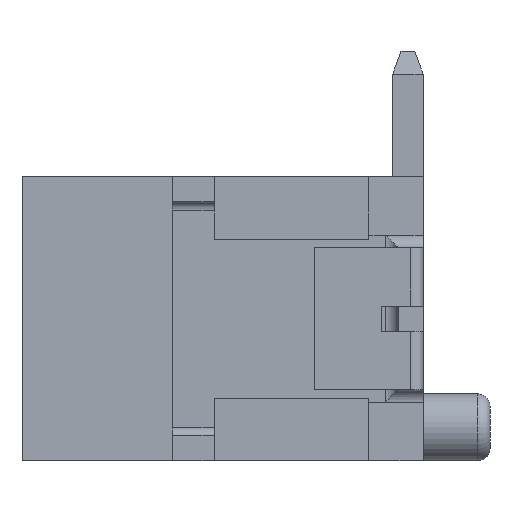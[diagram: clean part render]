
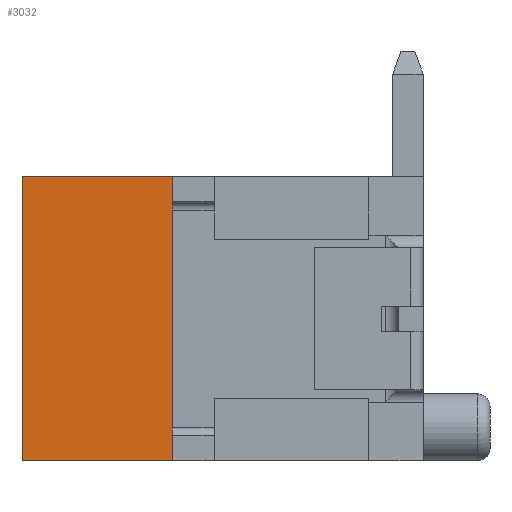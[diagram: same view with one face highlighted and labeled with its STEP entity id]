
A CAD part, left-side view. The second image highlights one B-rep face of the part: STEP entity #3032.
In plain terms, the highlighted planar face has unit normal (-1, 0, 0).
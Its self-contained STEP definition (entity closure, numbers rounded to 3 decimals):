
#204 = DIRECTION ( 'NONE',  ( 0., -1., 0. ) ) ;
#351 = DIRECTION ( 'NONE',  ( 0., 0., 1. ) ) ;
#398 = PLANE ( 'NONE',  #4417 ) ;
#486 = VECTOR ( 'NONE', #204, 1000. ) ;
#592 = EDGE_CURVE ( 'NONE', #1439, #5412, #5262, .T. ) ;
#852 = LINE ( 'NONE', #3424, #486 ) ;
#984 = FACE_OUTER_BOUND ( 'NONE', #3576, .T. ) ;
#1439 = VERTEX_POINT ( 'NONE', #4715 ) ;
#1564 = EDGE_CURVE ( 'NONE', #4675, #1439, #852, .T. ) ;
#1709 = VECTOR ( 'NONE', #2821, 1000. ) ;
#2070 = LINE ( 'NONE', #5309, #2703 ) ;
#2703 = VECTOR ( 'NONE', #4683, 1000. ) ;
#2821 = DIRECTION ( 'NONE',  ( 0., 0., -1. ) ) ;
#3032 = ADVANCED_FACE ( 'NONE', ( #984 ), #398, .T. ) ;
#3424 = CARTESIAN_POINT ( 'NONE',  ( 0., -4.8, 0. ) ) ;
#3576 = EDGE_LOOP ( 'NONE', ( #4090, #6000, #4229, #4504 ) ) ;
#3645 = CARTESIAN_POINT ( 'NONE',  ( 0., 0., 0. ) ) ;
#4036 = EDGE_CURVE ( 'NONE', #4973, #4675, #7945, .T. ) ;
#4090 = ORIENTED_EDGE ( 'NONE', *, *, #592, .F. ) ;
#4229 = ORIENTED_EDGE ( 'NONE', *, *, #4036, .F. ) ;
#4289 = CARTESIAN_POINT ( 'NONE',  ( 0., 0., 0. ) ) ;
#4417 = AXIS2_PLACEMENT_3D ( 'NONE', #3645, #8094, #351 ) ;
#4504 = ORIENTED_EDGE ( 'NONE', *, *, #6615, .F. ) ;
#4675 = VERTEX_POINT ( 'NONE', #4289 ) ;
#4683 = DIRECTION ( 'NONE',  ( 0., 1., 0. ) ) ;
#4715 = CARTESIAN_POINT ( 'NONE',  ( 0., -1.8, 0. ) ) ;
#4973 = VERTEX_POINT ( 'NONE', #5441 ) ;
#5262 = LINE ( 'NONE', #7823, #1709 ) ;
#5309 = CARTESIAN_POINT ( 'NONE',  ( 0., 0., -3.4 ) ) ;
#5412 = VERTEX_POINT ( 'NONE', #5456 ) ;
#5441 = CARTESIAN_POINT ( 'NONE',  ( 0., 0., -3.4 ) ) ;
#5456 = CARTESIAN_POINT ( 'NONE',  ( 0., -1.8, -3.4 ) ) ;
#5499 = VECTOR ( 'NONE', #6620, 1000. ) ;
#6000 = ORIENTED_EDGE ( 'NONE', *, *, #1564, .F. ) ;
#6578 = CARTESIAN_POINT ( 'NONE',  ( 0., 0., 0. ) ) ;
#6615 = EDGE_CURVE ( 'NONE', #5412, #4973, #2070, .T. ) ;
#6620 = DIRECTION ( 'NONE',  ( 0., 0., 1. ) ) ;
#7823 = CARTESIAN_POINT ( 'NONE',  ( 0., -1.8, 0. ) ) ;
#7945 = LINE ( 'NONE', #6578, #5499 ) ;
#8094 = DIRECTION ( 'NONE',  ( -1., 0., 0. ) ) ;
